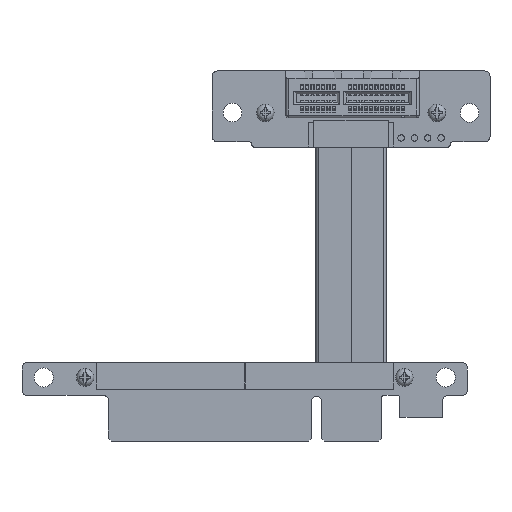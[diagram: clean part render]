
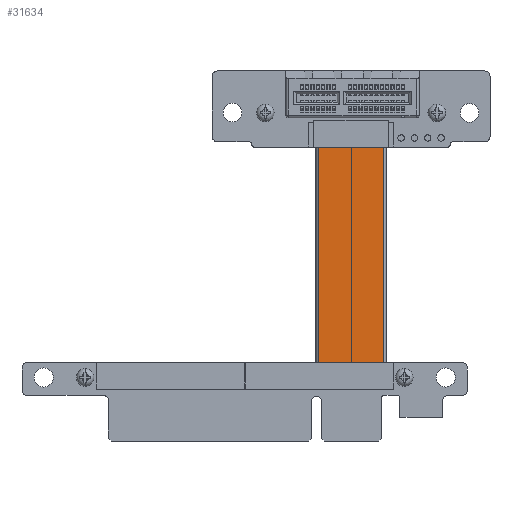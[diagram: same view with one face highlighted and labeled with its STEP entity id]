
A CAD part, top view. The second image highlights one B-rep face of the part: STEP entity #31634.
In plain terms, the highlighted planar face has unit normal (0, 0, 1) as drawn and (0, -1, 0) by its records, which use the part's own axes.
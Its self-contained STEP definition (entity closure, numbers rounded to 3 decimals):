
#31597 = VERTEX_POINT('',#31598);
#31598 = CARTESIAN_POINT('',(12.065,-1.4,-43.));
#31616 = VERTEX_POINT('',#31617);
#31617 = CARTESIAN_POINT('',(12.065,-1.4,0.));
#31624 = EDGE_CURVE('',#31597,#31616,#31625,.T.);
#31625 = LINE('',#31626,#31627);
#31626 = CARTESIAN_POINT('',(12.065,-1.4,-43.));
#31627 = VECTOR('',#31628,1.);
#31628 = DIRECTION('',(0.,0.,1.));
#31634 = ADVANCED_FACE('',(#31635),#31660,.T.);
#31635 = FACE_BOUND('',#31636,.T.);
#31636 = EDGE_LOOP('',(#31637,#31645,#31653,#31659));
#31637 = ORIENTED_EDGE('',*,*,#31638,.F.);
#31638 = EDGE_CURVE('',#31639,#31616,#31641,.T.);
#31639 = VERTEX_POINT('',#31640);
#31640 = CARTESIAN_POINT('',(0.,-1.4,
    0.));
#31641 = LINE('',#31642,#31643);
#31642 = CARTESIAN_POINT('',(6.032,-1.4,0.));
#31643 = VECTOR('',#31644,1.);
#31644 = DIRECTION('',(1.,0.,0.));
#31645 = ORIENTED_EDGE('',*,*,#31646,.F.);
#31646 = EDGE_CURVE('',#31647,#31639,#31649,.T.);
#31647 = VERTEX_POINT('',#31648);
#31648 = CARTESIAN_POINT('',(0.,-1.4,-43.)
  );
#31649 = LINE('',#31650,#31651);
#31650 = CARTESIAN_POINT('',(0.,-1.4,-43.)
  );
#31651 = VECTOR('',#31652,1.);
#31652 = DIRECTION('',(0.,0.,1.));
#31653 = ORIENTED_EDGE('',*,*,#31654,.T.);
#31654 = EDGE_CURVE('',#31647,#31597,#31655,.T.);
#31655 = LINE('',#31656,#31657);
#31656 = CARTESIAN_POINT('',(12.065,-1.4,-43.));
#31657 = VECTOR('',#31658,1.);
#31658 = DIRECTION('',(1.,0.,0.));
#31659 = ORIENTED_EDGE('',*,*,#31624,.T.);
#31660 = PLANE('',#31661);
#31661 = AXIS2_PLACEMENT_3D('',#31662,#31663,#31664);
#31662 = CARTESIAN_POINT('',(6.032,-1.4,-43.));
#31663 = DIRECTION('',(0.,-1.,0.));
#31664 = DIRECTION('',(0.,0.,-1.));
